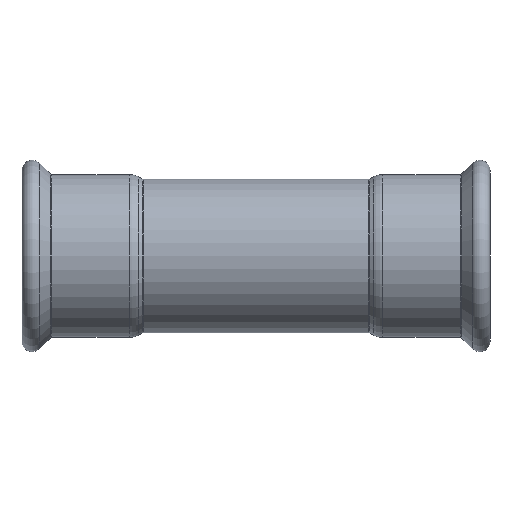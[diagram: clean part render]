
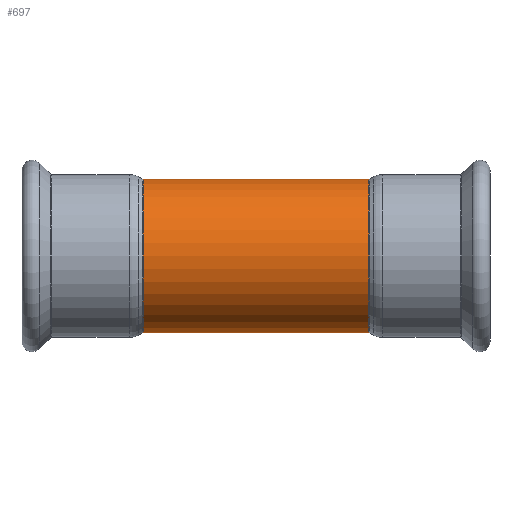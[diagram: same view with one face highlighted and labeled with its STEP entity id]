
A CAD part, front view. The second image highlights one B-rep face of the part: STEP entity #697.
In plain terms, the highlighted cylindrical face has radius 37.55 mm (diameter 75.1 mm), a partial arc.
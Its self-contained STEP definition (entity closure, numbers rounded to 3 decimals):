
#131 = DIRECTION ( 'NONE',  ( -1., 0., 0. ) ) ;
#151 = DIRECTION ( 'NONE',  ( 0., 0., 1. ) ) ;
#428 = DIRECTION ( 'NONE',  ( -1., 0., 0. ) ) ;
#536 = CARTESIAN_POINT ( 'NONE',  ( -55.056, 0., -37.55 ) ) ;
#697 = ADVANCED_FACE ( 'NONE', ( #1301 ), #1235, .T. ) ;
#731 = VERTEX_POINT ( 'NONE', #2582 ) ;
#741 = AXIS2_PLACEMENT_3D ( 'NONE', #852, #131, #151 ) ;
#852 = CARTESIAN_POINT ( 'NONE',  ( 27.146, 0., 0. ) ) ;
#916 = EDGE_CURVE ( 'NONE', #731, #3218, #967, .T. ) ;
#967 = LINE ( 'NONE', #1436, #1568 ) ;
#972 = CARTESIAN_POINT ( 'NONE',  ( 55.056, 0., 37.55 ) ) ;
#1161 = AXIS2_PLACEMENT_3D ( 'NONE', #3776, #3426, #1341 ) ;
#1183 = CARTESIAN_POINT ( 'NONE',  ( 27.146, 0., 37.55 ) ) ;
#1235 = CYLINDRICAL_SURFACE ( 'NONE', #741, 37.55 ) ;
#1301 = FACE_OUTER_BOUND ( 'NONE', #2414, .T. ) ;
#1341 = DIRECTION ( 'NONE',  ( 0., 0., 1. ) ) ;
#1357 = EDGE_CURVE ( 'NONE', #731, #2476, #4346, .T. ) ;
#1436 = CARTESIAN_POINT ( 'NONE',  ( 27.146, 0., -37.55 ) ) ;
#1568 = VECTOR ( 'NONE', #428, 1000. ) ;
#1933 = CARTESIAN_POINT ( 'NONE',  ( -55.056, 0., 37.55 ) ) ;
#2100 = ORIENTED_EDGE ( 'NONE', *, *, #1357, .T. ) ;
#2414 = EDGE_LOOP ( 'NONE', ( #3470, #2100, #3098, #4195 ) ) ;
#2472 = DIRECTION ( 'NONE',  ( 0., 0., 1. ) ) ;
#2476 = VERTEX_POINT ( 'NONE', #972 ) ;
#2582 = CARTESIAN_POINT ( 'NONE',  ( 55.056, 0., -37.55 ) ) ;
#2945 = DIRECTION ( 'NONE',  ( -1., 0., 0. ) ) ;
#3098 = ORIENTED_EDGE ( 'NONE', *, *, #3235, .T. ) ;
#3165 = VECTOR ( 'NONE', #2945, 1000. ) ;
#3218 = VERTEX_POINT ( 'NONE', #536 ) ;
#3235 = EDGE_CURVE ( 'NONE', #2476, #3884, #3913, .T. ) ;
#3426 = DIRECTION ( 'NONE',  ( -1., 0., 0. ) ) ;
#3469 = EDGE_CURVE ( 'NONE', #3218, #3884, #3857, .T. ) ;
#3470 = ORIENTED_EDGE ( 'NONE', *, *, #916, .F. ) ;
#3503 = CARTESIAN_POINT ( 'NONE',  ( 55.056, 0., 0. ) ) ;
#3776 = CARTESIAN_POINT ( 'NONE',  ( -55.056, 0., 0. ) ) ;
#3857 = CIRCLE ( 'NONE', #1161, 37.55 ) ;
#3884 = VERTEX_POINT ( 'NONE', #1933 ) ;
#3913 = LINE ( 'NONE', #1183, #3165 ) ;
#4195 = ORIENTED_EDGE ( 'NONE', *, *, #3469, .F. ) ;
#4215 = AXIS2_PLACEMENT_3D ( 'NONE', #3503, #4226, #2472 ) ;
#4226 = DIRECTION ( 'NONE',  ( -1., 0., 0. ) ) ;
#4346 = CIRCLE ( 'NONE', #4215, 37.55 ) ;
